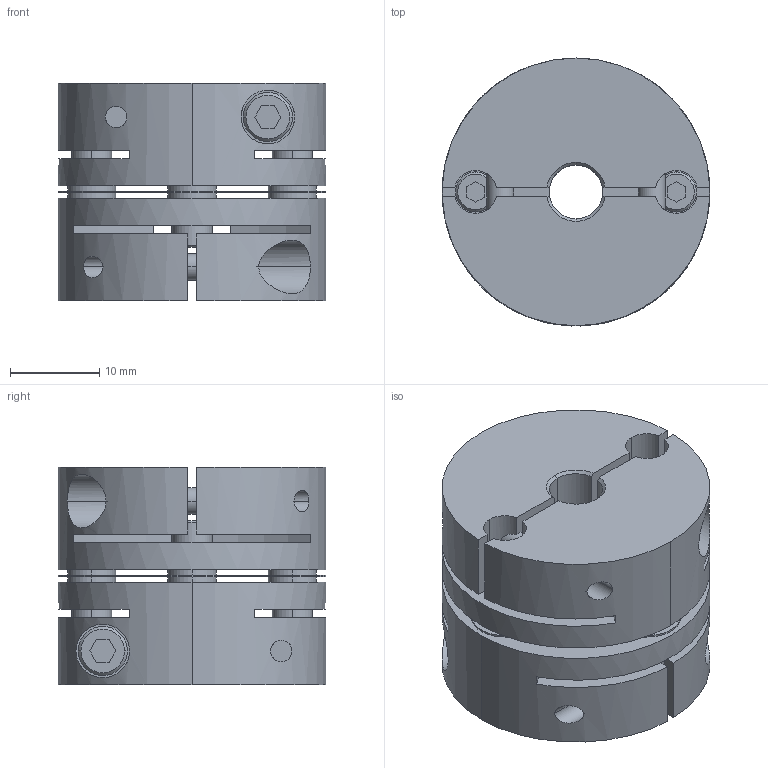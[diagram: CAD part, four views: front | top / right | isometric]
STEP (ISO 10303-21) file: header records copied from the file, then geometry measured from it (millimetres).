
FILE_DESCRIPTION((''),'2;1');
FILE_NAME('LAS-30C-6×10.stp','2011-08-10T13:09:15',(''),(''),'AutoCAD STEP 2000i','AutoCAD 2000i',', , ');
FILE_SCHEMA(('CONFIG_CONTROL_DESIGN'));
Length unit declared in the file: millimetre
Products named in the file (6): LAS-30C-6×10; 忣兜1; LA-3002-D10; LA-3002-D06-1; LA-3002-D06; LAS30-ITA
Assembly tree (5 placements, depth 2):
  LAS-30C-6×10
    忣兜1
    LA-3002-D10
    LA-3002-D06-1
    LA-3002-D06
    LAS30-ITA
Bounding box: 30 x 30 x 24.4 mm (x, y, z)
Volume: 13254 mm3; surface area: 9202.7 mm2
Topology: 1 solids, 1 shells, 240 faces, 636 edges, 416 vertices
Faces by surface type: plane 112, cylinder 100, cone 28
Entity records: 8333 total; most frequent: CARTESIAN_POINT 2034, DIRECTION 1316, ORIENTED_EDGE 1272, EDGE_CURVE 636, AXIS2_PLACEMENT_3D 482, VERTEX_POINT 416, VECTOR 352, LINE 352
